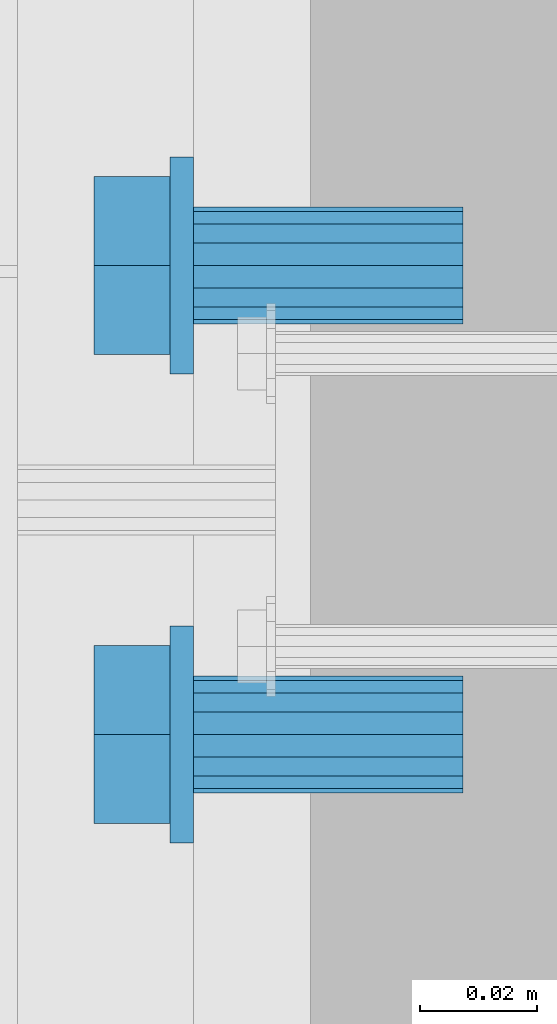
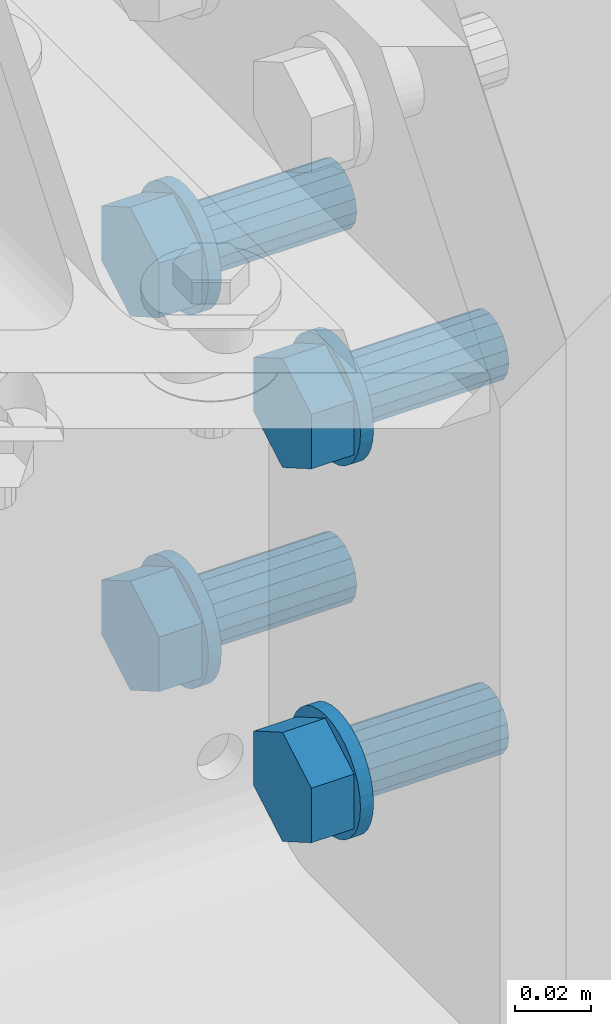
# One storey, part 215 of 410: 4 mechanical fasteners.
"""IFC2X3 building model written with IfcOpenShell, lengths in millimetres."""

import ifcopenshell
import ifcopenshell.guid

model = None  # the IFC model being written
_history = None  # IfcOwnerHistory: only IFC2X3 demands one
_inside = {}  # id of a spatial element -> (the spatial element, [elements in it])
_under = {}  # id of a project, library or spatial element -> (it, [spatial elements below it])
_declared = {}  # id of a project -> (the project, [libraries it declares])
_typed = {}  # id of a type object -> (the type object, [elements of that type])
_made_of = {}  # id of a material, layer set ... -> (it, [elements and type objects made of it])


def new_model(schema):
    """Start an empty IFC model of exactly this schema.

    Asked for "IFC4X3", IfcOpenShell would pick the latest addendum, in which some entities
    have other attributes; the version numbers below select the first issue.
    IFC2X3 requires an IfcOwnerHistory on every rooted entity: one is made here for all.
    """
    global model, _history
    if schema == "IFC4X3":
        model = ifcopenshell.file(schema_version=(4, 3, 0, 0))
    else:
        model = ifcopenshell.file(schema=schema)
    _inside.clear()
    _under.clear()
    _declared.clear()
    _typed.clear()
    _made_of.clear()
    _history = None
    if model.schema == "IFC2X3":
        org = make("IfcOrganization", Name="unknown")
        user = make(
            "IfcPersonAndOrganization",
            ThePerson=make("IfcPerson", FamilyName="unknown"),
            TheOrganization=org,
        )
        app = make(
            "IfcApplication",
            ApplicationDeveloper=org,
            Version="unknown",
            ApplicationFullName="unknown",
            ApplicationIdentifier="unknown",
        )
        _history = make(
            "IfcOwnerHistory",
            OwningUser=user,
            OwningApplication=app,
            ChangeAction="ADDED",
            CreationDate=0,
        )
    return model


def make(cls, **values):
    """One entity of the class cls with the attributes given. An attribute that is None is left unset."""
    return model.create_entity(
        cls, **{name: value for name, value in values.items() if value is not None}
    )


def entity(cls, *values):
    """Any entity or typed value of the class cls, its attributes in the order of the schema. None: left unset."""
    e = model.create_entity(cls)
    for i, value in enumerate(values):
        if value is not None:
            e[i] = value
    return e


def rooted(cls, **values):
    """An entity with a GlobalId (a new one), such as an element, a storey or a relation."""
    return make(cls, GlobalId=ifcopenshell.guid.new(), OwnerHistory=_history, **values)


def si_unit(unit_type, name, prefix=None):
    """IfcSIUnit, for example si_unit("LENGTHUNIT", "METRE", prefix="MILLI")."""
    return make("IfcSIUnit", UnitType=unit_type, Prefix=prefix, Name=name)


def converted_unit(unit_type, name, factor, base, dimensions=None, offset=None):
    """IfcConversionBasedUnit, such as the inch: factor (a typed value) times the base unit."""
    return make(
        "IfcConversionBasedUnit"
        if offset is None
        else "IfcConversionBasedUnitWithOffset",
        ConversionOffset=offset,
        Dimensions=None
        if dimensions is None
        else entity("IfcDimensionalExponents", *dimensions),
        UnitType=unit_type,
        Name=name,
        ConversionFactor=make(
            "IfcMeasureWithUnit", ValueComponent=factor, UnitComponent=base
        ),
    )


def assignment(units):
    """IfcUnitAssignment: the units of a project."""
    return None if units is None else make("IfcUnitAssignment", Units=units)


def point(xyz):
    """IfcCartesianPoint."""
    return None if xyz is None else make("IfcCartesianPoint", Coordinates=xyz)


def direction(xyz):
    """IfcDirection."""
    return None if xyz is None else make("IfcDirection", DirectionRatios=xyz)


def frame(location, z_axis=None, x_axis=None):
    """IfcAxis2Placement3D, a coordinate frame: its origin and axes. An axis left out is left unset."""
    return make(
        "IfcAxis2Placement3D",
        Location=point(location),
        Axis=direction(z_axis),
        RefDirection=direction(x_axis),
    )


def origin_with_axes():
    """The frame at (0, 0, 0) with the z axis (0, 0, 1) and the x axis (1, 0, 0) written out."""
    return frame((0.0, 0.0, 0.0), z_axis=(0.0, 0.0, 1.0), x_axis=(1.0, 0.0, 0.0))


def place(relative_to, where):
    """IfcLocalPlacement: puts the frame where relative to a parent placement (None: the world)."""
    return make(
        "IfcLocalPlacement", PlacementRelTo=relative_to, RelativePlacement=where
    )


def context(
    kind, dimensions, precision=None, world=None, true_north=None, identifier=None
):
    """IfcGeometricRepresentationContext, for example the 3D "Model" context."""
    return make(
        "IfcGeometricRepresentationContext",
        ContextIdentifier=identifier,
        ContextType=kind,
        CoordinateSpaceDimension=dimensions,
        Precision=precision,
        WorldCoordinateSystem=world,
        TrueNorth=true_north,
    )


def project(units=None, contexts=None):
    """IfcProject with its units and contexts."""
    return rooted(
        "IfcProject",
        Name="project",
        RepresentationContexts=contexts,
        UnitsInContext=assignment(units),
    )


def spatial(cls, under=None, at=None, **own):
    """A site, building, storey or space (cls), placed at a placement, below another one or the project."""
    s = rooted(cls, ObjectPlacement=at, **own)
    if under is not None:
        _under.setdefault(under.id(), (under, []))[1].append(s)
    return s


def faces_of(points, faces, orient=None, outer=None):
    """IfcFace entities. A face is a list of loops; a loop is a list of indices into points, from 0.

    orient and outer hold one flag for each loop. By default every Orientation is true, the
    first loop of a face is its IfcFaceOuterBound and the others are IfcFaceBound.
    """
    made = []
    for i, loops in enumerate(faces):
        bounds = []
        for j, loop in enumerate(loops):
            is_outer = j == 0 if outer is None else outer[i][j]
            bounds.append(
                make(
                    "IfcFaceOuterBound" if is_outer else "IfcFaceBound",
                    Bound=make("IfcPolyLoop", Polygon=[points[k] for k in loop]),
                    Orientation=True if orient is None else orient[i][j],
                )
            )
        made.append(make("IfcFace", Bounds=bounds))
    return made


def faceted_brep(points, faces, orient=None, outer=None, voids=None):
    """IfcFacetedBrep: a solid bounded by flat faces; with voids (closed shells), ...WithVoids."""
    shared = [point(p) for p in points]
    hull = make("IfcClosedShell", CfsFaces=faces_of(shared, faces, orient, outer))
    if voids is None:
        return make("IfcFacetedBrep", Outer=hull)
    return make(
        "IfcFacetedBrepWithVoids",
        Outer=hull,
        Voids=[
            make(cls, CfsFaces=faces_of(shared, fs, o, b)) for cls, fs, o, b in voids
        ],
    )


def shape(context_of_items, identifier, shape_type, items):
    """IfcShapeRepresentation: the items that make up one representation, for example the "Body"."""
    return make(
        "IfcShapeRepresentation",
        ContextOfItems=context_of_items,
        RepresentationIdentifier=identifier,
        RepresentationType=shape_type,
        Items=items,
    )


def made_of(thing, what):
    """Note that an element or type object is made of a material, layer set ...; save() writes the relation."""
    if what is not None:
        _made_of.setdefault(what.id(), (what, []))[1].append(thing)
    return thing


def element(
    cls,
    number,
    at=None,
    inside=None,
    cuts=None,
    type_object=None,
    material=None,
    context=None,
    identifier="Body",
    shape_type=None,
    held_by="IfcProductDefinitionShape",
    body=None,
    shapes=None,
    **own,
):
    """One element of the class cls, such as IfcWall. Its Tag is "e" and its number.

    at: its placement. inside: the storey or other place that contains it. cuts: it is an
    opening in that element (IfcRelVoidsElement). A single representation is given by context,
    identifier, shape_type and body (its items); several are given by shapes. held_by: the class
    of the entity that holds the representations. save() writes the other relations.
    """
    e = rooted(cls, Tag="e%d" % number, ObjectPlacement=at, **own)
    if body is not None:
        shapes = [shape(context, identifier, shape_type, body)]
    if shapes is not None:
        e.Representation = make(held_by, Representations=shapes)
    if inside is not None:
        _inside.setdefault(inside.id(), (inside, []))[1].append(e)
    if cuts is not None:
        rooted(
            "IfcRelVoidsElement", RelatingBuildingElement=cuts, RelatedOpeningElement=e
        )
    if type_object is not None:
        _typed.setdefault(type_object.id(), (type_object, []))[1].append(e)
    return made_of(e, material)


def aggregate(whole, parts):
    """IfcRelAggregates: a whole, such as a stair, and the parts it consists of."""
    return rooted("IfcRelAggregates", RelatingObject=whole, RelatedObjects=parts)


def save(model, path):
    """Write the relations noted so far, then the file.

    IfcRelAggregates (storeys below a building ...), IfcRelContainedInSpatialStructure (elements
    in a storey), IfcRelDefinesByType, IfcRelAssociatesMaterial and IfcRelDeclares: one each for
    every whole, place, type object, material and project.
    """
    for whole, parts in _under.values():
        aggregate(whole, parts)
    for where, things in _inside.values():
        rooted(
            "IfcRelContainedInSpatialStructure",
            RelatedElements=things,
            RelatingStructure=where,
        )
    for kind, things in _typed.values():
        rooted("IfcRelDefinesByType", RelatedObjects=things, RelatingType=kind)
    for what, things in _made_of.values():
        rooted("IfcRelAssociatesMaterial", RelatedObjects=things, RelatingMaterial=what)
    for by, libraries in _declared.values():
        rooted("IfcRelDeclares", RelatingContext=by, RelatedDefinitions=libraries)
    model.write(path)


model = new_model("IFC2X3")

# Units and contexts
model_context = context("Model", 3, precision=1e-09, world=origin_with_axes())
ifc_project = project(units=[si_unit("LENGTHUNIT", "METRE", prefix="MILLI"), si_unit("AREAUNIT", "SQUARE_METRE"), si_unit("VOLUMEUNIT", "CUBIC_METRE"), converted_unit("PLANEANGLEUNIT", "DEGREE", entity("IfcPlaneAngleMeasure", 0.01745329), si_unit("PLANEANGLEUNIT", "RADIAN"), dimensions=[0, 0, 0, 0, 0, 0, 0])], contexts=[model_context])

# Site, building, storey
site_placement = place(None, origin_with_axes())
site = spatial("IfcSite", under=ifc_project, at=site_placement, Name="mKR Teilneubau & Sanierung BA1 - Ostfildern", CompositionType="ELEMENT")
building_placement = place(site_placement, origin_with_axes())
building = spatial("IfcBuilding", under=site, at=building_placement, Name="Struktur 1", CompositionType="ELEMENT")
storey_placement = place(building_placement, origin_with_axes())
storey = spatial("IfcBuildingStorey", under=building, at=storey_placement, Name="Default Storey", CompositionType="ELEMENT", Elevation=0.0)

# Mechanical fasteners
mechanical_fastener_1_placement = place(None, origin_with_axes())
element("IfcMechanicalFastener", 1, at=mechanical_fastener_1_placement, inside=storey, ObjectType="-", NominalDiameter=20.0, NominalLength=50.0, context=model_context, shape_type="Brep", body=[
    faceted_brep([(-1729.0, 16958.5, -335.0), (-1725.0, 16958.5, -335.0), (-1725.0, 16958.144527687, -338.609170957), (-1729.0, 16958.144527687, -338.609170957), (-1725.0, 16957.091771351, -342.079643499), (-1729.0, 16957.091771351, -342.079643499), (-1725.0, 16955.382187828, -345.278049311), (-1729.0, 16955.382187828, -345.278049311), (-1725.0, 16953.081475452, -348.081475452), (-1729.0, 16953.081475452, -348.081475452), (-1725.0, 16950.278049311, -350.382187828), (-1729.0, 16950.278049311, -350.382187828), (-1725.0, 16947.079643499, -352.091771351), (-1729.0, 16947.079643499, -352.091771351), (-1725.0, 16943.609170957, -353.144527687), (-1729.0, 16943.609170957, -353.144527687), (-1725.0, 16940.0, -353.5), (-1729.0, 16940.0, -353.5), (-1725.0, 16936.390829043, -353.144527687), (-1729.0, 16936.390829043, -353.144527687), (-1725.0, 16932.920356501, -352.091771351), (-1729.0, 16932.920356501, -352.091771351), (-1725.0, 16929.721950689, -350.382187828), (-1729.0, 16929.721950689, -350.382187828), (-1725.0, 16926.918524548, -348.081475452), (-1729.0, 16926.918524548, -348.081475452), (-1725.0, 16924.617812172, -345.278049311), (-1729.0, 16924.617812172, -345.278049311), (-1725.0, 16922.908228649, -342.079643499), (-1729.0, 16922.908228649, -342.079643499), (-1725.0, 16921.855472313, -338.609170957), (-1729.0, 16921.855472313, -338.609170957), (-1725.0, 16921.5, -335.0), (-1729.0, 16921.5, -335.0), (-1725.0, 16921.855472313, -331.390829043), (-1729.0, 16921.855472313, -331.390829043), (-1725.0, 16922.908228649, -327.920356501), (-1729.0, 16922.908228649, -327.920356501), (-1725.0, 16924.617812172, -324.721950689), (-1729.0, 16924.617812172, -324.721950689), (-1725.0, 16926.918524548, -321.918524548), (-1729.0, 16926.918524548, -321.918524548), (-1725.0, 16929.721950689, -319.617812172), (-1729.0, 16929.721950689, -319.617812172), (-1725.0, 16932.920356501, -317.908228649), (-1729.0, 16932.920356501, -317.908228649), (-1725.0, 16936.390829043, -316.855472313), (-1729.0, 16936.390829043, -316.855472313), (-1725.0, 16940.0, -316.5), (-1729.0, 16940.0, -316.5), (-1725.0, 16943.609170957, -316.855472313), (-1729.0, 16943.609170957, -316.855472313), (-1725.0, 16947.079643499, -317.908228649), (-1729.0, 16947.079643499, -317.908228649), (-1725.0, 16950.278049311, -319.617812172), (-1729.0, 16950.278049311, -319.617812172), (-1725.0, 16953.081475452, -321.918524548), (-1729.0, 16953.081475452, -321.918524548), (-1725.0, 16955.382187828, -324.721950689), (-1729.0, 16955.382187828, -324.721950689), (-1725.0, 16957.091771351, -327.920356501), (-1729.0, 16957.091771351, -327.920356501), (-1725.0, 16958.144527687, -331.390829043), (-1729.0, 16958.144527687, -331.390829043)], [[[0, 1, 2, 3]], [[3, 2, 4, 5]], [[5, 4, 6, 7]], [[7, 6, 8, 9]], [[9, 8, 10, 11]], [[11, 10, 12, 13]], [[13, 12, 14, 15]], [[15, 14, 16, 17]], [[17, 16, 18, 19]], [[19, 18, 20, 21]], [[21, 20, 22, 23]], [[23, 22, 24, 25]], [[25, 24, 26, 27]], [[27, 26, 28, 29]], [[29, 28, 30, 31]], [[31, 30, 32, 33]], [[33, 32, 34, 35]], [[35, 34, 36, 37]], [[37, 36, 38, 39]], [[39, 38, 40, 41]], [[41, 40, 42, 43]], [[43, 42, 44, 45]], [[45, 44, 46, 47]], [[47, 46, 48, 49]], [[49, 48, 50, 51]], [[51, 50, 52, 53]], [[53, 52, 54, 55]], [[55, 54, 56, 57]], [[57, 56, 58, 59]], [[59, 58, 60, 61]], [[61, 60, 62, 63]], [[63, 62, 1, 0]], [[0, 3, 5, 7, 9, 11, 13, 15, 17, 19, 21, 23, 25, 27, 29, 31, 33, 35, 37, 39, 41, 43, 45, 47, 49, 51, 53, 55, 57, 59, 61, 63]], [[1, 62, 60, 58, 56, 54, 52, 50, 48, 46, 44, 42, 40, 38, 36, 34, 32, 30, 28, 26, 24, 22, 20, 18, 16, 14, 12, 10, 8, 6, 4, 2]]]),
    faceted_brep([(-1729.0, 16924.831565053, -343.7575), (-1742.0, 16924.831565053, -343.7575), (-1742.0, 16940.0, -352.515), (-1729.0, 16940.0, -352.515), (-1742.0, 16955.168434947, -343.7575), (-1729.0, 16955.168434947, -343.7575), (-1742.0, 16955.168434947, -326.2425), (-1729.0, 16955.168434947, -326.2425), (-1742.0, 16940.0, -317.485), (-1729.0, 16940.0, -317.485), (-1742.0, 16924.831565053, -326.2425), (-1729.0, 16924.831565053, -326.2425)], [[[0, 1, 2, 3]], [[3, 2, 4, 5]], [[5, 4, 6, 7]], [[7, 6, 8, 9]], [[9, 8, 10, 11]], [[11, 10, 1, 0]], [[4, 2, 1, 10, 8, 6]], [[0, 3, 5, 7, 9, 11]]]),
    faceted_brep([(-1725.0, 16950.0, -335.0), (-1705.0, 16950.0, -335.0), (-1705.0, 16949.238795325, -338.826834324), (-1725.0, 16949.238795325, -338.826834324), (-1705.0, 16947.071067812, -342.071067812), (-1725.0, 16947.071067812, -342.071067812), (-1705.0, 16943.826834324, -344.238795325), (-1725.0, 16943.826834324, -344.238795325), (-1705.0, 16940.0, -345.0), (-1725.0, 16940.0, -345.0), (-1705.0, 16936.173165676, -344.238795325), (-1725.0, 16936.173165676, -344.238795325), (-1705.0, 16932.928932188, -342.071067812), (-1725.0, 16932.928932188, -342.071067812), (-1705.0, 16930.761204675, -338.826834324), (-1725.0, 16930.761204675, -338.826834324), (-1705.0, 16930.0, -335.0), (-1725.0, 16930.0, -335.0), (-1705.0, 16930.761204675, -331.173165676), (-1725.0, 16930.761204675, -331.173165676), (-1705.0, 16932.928932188, -327.928932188), (-1725.0, 16932.928932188, -327.928932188), (-1705.0, 16936.173165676, -325.761204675), (-1725.0, 16936.173165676, -325.761204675), (-1705.0, 16940.0, -325.0), (-1725.0, 16940.0, -325.0), (-1705.0, 16943.826834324, -325.761204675), (-1725.0, 16943.826834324, -325.761204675), (-1705.0, 16947.071067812, -327.928932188), (-1725.0, 16947.071067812, -327.928932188), (-1705.0, 16949.238795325, -331.173165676), (-1725.0, 16949.238795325, -331.173165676)], [[[0, 1, 2, 3]], [[3, 2, 4, 5]], [[5, 4, 6, 7]], [[7, 6, 8, 9]], [[9, 8, 10, 11]], [[11, 10, 12, 13]], [[13, 12, 14, 15]], [[15, 14, 16, 17]], [[17, 16, 18, 19]], [[19, 18, 20, 21]], [[21, 20, 22, 23]], [[23, 22, 24, 25]], [[25, 24, 26, 27]], [[27, 26, 28, 29]], [[29, 28, 30, 31]], [[31, 30, 1, 0]], [[0, 3, 5, 7, 9, 11, 13, 15, 17, 19, 21, 23, 25, 27, 29, 31]], [[1, 30, 28, 26, 24, 22, 20, 18, 16, 14, 12, 10, 8, 6, 4, 2]]]),
    faceted_brep([(-1705.0, 16950.0, -335.0), (-1679.0, 16950.0, -335.0), (-1679.0, 16949.238795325, -338.826834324), (-1705.0, 16949.238795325, -338.826834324), (-1679.0, 16947.071067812, -342.071067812), (-1705.0, 16947.071067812, -342.071067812), (-1679.0, 16943.826834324, -344.238795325), (-1705.0, 16943.826834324, -344.238795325), (-1679.0, 16940.0, -345.0), (-1705.0, 16940.0, -345.0), (-1679.0, 16936.173165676, -344.238795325), (-1705.0, 16936.173165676, -344.238795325), (-1679.0, 16932.928932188, -342.071067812), (-1705.0, 16932.928932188, -342.071067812), (-1679.0, 16930.761204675, -338.826834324), (-1705.0, 16930.761204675, -338.826834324), (-1679.0, 16930.0, -335.0), (-1705.0, 16930.0, -335.0), (-1679.0, 16930.761204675, -331.173165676), (-1705.0, 16930.761204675, -331.173165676), (-1679.0, 16932.928932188, -327.928932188), (-1705.0, 16932.928932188, -327.928932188), (-1679.0, 16936.173165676, -325.761204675), (-1705.0, 16936.173165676, -325.761204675), (-1679.0, 16940.0, -325.0), (-1705.0, 16940.0, -325.0), (-1679.0, 16943.826834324, -325.761204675), (-1705.0, 16943.826834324, -325.761204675), (-1679.0, 16947.071067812, -327.928932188), (-1705.0, 16947.071067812, -327.928932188), (-1679.0, 16949.238795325, -331.173165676), (-1705.0, 16949.238795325, -331.173165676)], [[[0, 1, 2, 3]], [[3, 2, 4, 5]], [[5, 4, 6, 7]], [[7, 6, 8, 9]], [[9, 8, 10, 11]], [[11, 10, 12, 13]], [[13, 12, 14, 15]], [[15, 14, 16, 17]], [[17, 16, 18, 19]], [[19, 18, 20, 21]], [[21, 20, 22, 23]], [[23, 22, 24, 25]], [[25, 24, 26, 27]], [[27, 26, 28, 29]], [[29, 28, 30, 31]], [[31, 30, 1, 0]], [[0, 3, 5, 7, 9, 11, 13, 15, 17, 19, 21, 23, 25, 27, 29, 31]], [[1, 30, 28, 26, 24, 22, 20, 18, 16, 14, 12, 10, 8, 6, 4, 2]]]),
])
mechanical_fastener_2_placement = place(None, origin_with_axes())
element("IfcMechanicalFastener", 2, at=mechanical_fastener_2_placement, inside=storey, ObjectType="-", NominalDiameter=20.0, NominalLength=50.0, context=model_context, shape_type="Brep", body=[
    faceted_brep([(-1729.0, 17038.5, -335.0), (-1725.0, 17038.5, -335.0), (-1725.0, 17038.144527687, -338.609170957), (-1729.0, 17038.144527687, -338.609170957), (-1725.0, 17037.091771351, -342.079643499), (-1729.0, 17037.091771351, -342.079643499), (-1725.0, 17035.382187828, -345.278049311), (-1729.0, 17035.382187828, -345.278049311), (-1725.0, 17033.081475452, -348.081475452), (-1729.0, 17033.081475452, -348.081475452), (-1725.0, 17030.278049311, -350.382187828), (-1729.0, 17030.278049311, -350.382187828), (-1725.0, 17027.079643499, -352.091771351), (-1729.0, 17027.079643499, -352.091771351), (-1725.0, 17023.609170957, -353.144527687), (-1729.0, 17023.609170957, -353.144527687), (-1725.0, 17020.0, -353.5), (-1729.0, 17020.0, -353.5), (-1725.0, 17016.390829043, -353.144527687), (-1729.0, 17016.390829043, -353.144527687), (-1725.0, 17012.920356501, -352.091771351), (-1729.0, 17012.920356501, -352.091771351), (-1725.0, 17009.721950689, -350.382187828), (-1729.0, 17009.721950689, -350.382187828), (-1725.0, 17006.918524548, -348.081475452), (-1729.0, 17006.918524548, -348.081475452), (-1725.0, 17004.617812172, -345.278049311), (-1729.0, 17004.617812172, -345.278049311), (-1725.0, 17002.908228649, -342.079643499), (-1729.0, 17002.908228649, -342.079643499), (-1725.0, 17001.855472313, -338.609170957), (-1729.0, 17001.855472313, -338.609170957), (-1725.0, 17001.5, -335.0), (-1729.0, 17001.5, -335.0), (-1725.0, 17001.855472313, -331.390829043), (-1729.0, 17001.855472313, -331.390829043), (-1725.0, 17002.908228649, -327.920356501), (-1729.0, 17002.908228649, -327.920356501), (-1725.0, 17004.617812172, -324.721950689), (-1729.0, 17004.617812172, -324.721950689), (-1725.0, 17006.918524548, -321.918524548), (-1729.0, 17006.918524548, -321.918524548), (-1725.0, 17009.721950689, -319.617812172), (-1729.0, 17009.721950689, -319.617812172), (-1725.0, 17012.920356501, -317.908228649), (-1729.0, 17012.920356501, -317.908228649), (-1725.0, 17016.390829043, -316.855472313), (-1729.0, 17016.390829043, -316.855472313), (-1725.0, 17020.0, -316.5), (-1729.0, 17020.0, -316.5), (-1725.0, 17023.609170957, -316.855472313), (-1729.0, 17023.609170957, -316.855472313), (-1725.0, 17027.079643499, -317.908228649), (-1729.0, 17027.079643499, -317.908228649), (-1725.0, 17030.278049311, -319.617812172), (-1729.0, 17030.278049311, -319.617812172), (-1725.0, 17033.081475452, -321.918524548), (-1729.0, 17033.081475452, -321.918524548), (-1725.0, 17035.382187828, -324.721950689), (-1729.0, 17035.382187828, -324.721950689), (-1725.0, 17037.091771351, -327.920356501), (-1729.0, 17037.091771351, -327.920356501), (-1725.0, 17038.144527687, -331.390829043), (-1729.0, 17038.144527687, -331.390829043)], [[[0, 1, 2, 3]], [[3, 2, 4, 5]], [[5, 4, 6, 7]], [[7, 6, 8, 9]], [[9, 8, 10, 11]], [[11, 10, 12, 13]], [[13, 12, 14, 15]], [[15, 14, 16, 17]], [[17, 16, 18, 19]], [[19, 18, 20, 21]], [[21, 20, 22, 23]], [[23, 22, 24, 25]], [[25, 24, 26, 27]], [[27, 26, 28, 29]], [[29, 28, 30, 31]], [[31, 30, 32, 33]], [[33, 32, 34, 35]], [[35, 34, 36, 37]], [[37, 36, 38, 39]], [[39, 38, 40, 41]], [[41, 40, 42, 43]], [[43, 42, 44, 45]], [[45, 44, 46, 47]], [[47, 46, 48, 49]], [[49, 48, 50, 51]], [[51, 50, 52, 53]], [[53, 52, 54, 55]], [[55, 54, 56, 57]], [[57, 56, 58, 59]], [[59, 58, 60, 61]], [[61, 60, 62, 63]], [[63, 62, 1, 0]], [[0, 3, 5, 7, 9, 11, 13, 15, 17, 19, 21, 23, 25, 27, 29, 31, 33, 35, 37, 39, 41, 43, 45, 47, 49, 51, 53, 55, 57, 59, 61, 63]], [[1, 62, 60, 58, 56, 54, 52, 50, 48, 46, 44, 42, 40, 38, 36, 34, 32, 30, 28, 26, 24, 22, 20, 18, 16, 14, 12, 10, 8, 6, 4, 2]]]),
    faceted_brep([(-1729.0, 17004.831565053, -343.7575), (-1742.0, 17004.831565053, -343.7575), (-1742.0, 17020.0, -352.515), (-1729.0, 17020.0, -352.515), (-1742.0, 17035.168434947, -343.7575), (-1729.0, 17035.168434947, -343.7575), (-1742.0, 17035.168434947, -326.2425), (-1729.0, 17035.168434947, -326.2425), (-1742.0, 17020.0, -317.485), (-1729.0, 17020.0, -317.485), (-1742.0, 17004.831565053, -326.2425), (-1729.0, 17004.831565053, -326.2425)], [[[0, 1, 2, 3]], [[3, 2, 4, 5]], [[5, 4, 6, 7]], [[7, 6, 8, 9]], [[9, 8, 10, 11]], [[11, 10, 1, 0]], [[4, 2, 1, 10, 8, 6]], [[0, 3, 5, 7, 9, 11]]]),
    faceted_brep([(-1725.0, 17030.0, -335.0), (-1705.0, 17030.0, -335.0), (-1705.0, 17029.238795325, -338.826834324), (-1725.0, 17029.238795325, -338.826834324), (-1705.0, 17027.071067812, -342.071067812), (-1725.0, 17027.071067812, -342.071067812), (-1705.0, 17023.826834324, -344.238795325), (-1725.0, 17023.826834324, -344.238795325), (-1705.0, 17020.0, -345.0), (-1725.0, 17020.0, -345.0), (-1705.0, 17016.173165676, -344.238795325), (-1725.0, 17016.173165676, -344.238795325), (-1705.0, 17012.928932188, -342.071067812), (-1725.0, 17012.928932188, -342.071067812), (-1705.0, 17010.761204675, -338.826834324), (-1725.0, 17010.761204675, -338.826834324), (-1705.0, 17010.0, -335.0), (-1725.0, 17010.0, -335.0), (-1705.0, 17010.761204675, -331.173165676), (-1725.0, 17010.761204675, -331.173165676), (-1705.0, 17012.928932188, -327.928932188), (-1725.0, 17012.928932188, -327.928932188), (-1705.0, 17016.173165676, -325.761204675), (-1725.0, 17016.173165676, -325.761204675), (-1705.0, 17020.0, -325.0), (-1725.0, 17020.0, -325.0), (-1705.0, 17023.826834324, -325.761204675), (-1725.0, 17023.826834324, -325.761204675), (-1705.0, 17027.071067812, -327.928932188), (-1725.0, 17027.071067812, -327.928932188), (-1705.0, 17029.238795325, -331.173165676), (-1725.0, 17029.238795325, -331.173165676)], [[[0, 1, 2, 3]], [[3, 2, 4, 5]], [[5, 4, 6, 7]], [[7, 6, 8, 9]], [[9, 8, 10, 11]], [[11, 10, 12, 13]], [[13, 12, 14, 15]], [[15, 14, 16, 17]], [[17, 16, 18, 19]], [[19, 18, 20, 21]], [[21, 20, 22, 23]], [[23, 22, 24, 25]], [[25, 24, 26, 27]], [[27, 26, 28, 29]], [[29, 28, 30, 31]], [[31, 30, 1, 0]], [[0, 3, 5, 7, 9, 11, 13, 15, 17, 19, 21, 23, 25, 27, 29, 31]], [[1, 30, 28, 26, 24, 22, 20, 18, 16, 14, 12, 10, 8, 6, 4, 2]]]),
    faceted_brep([(-1705.0, 17030.0, -335.0), (-1679.0, 17030.0, -335.0), (-1679.0, 17029.238795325, -338.826834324), (-1705.0, 17029.238795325, -338.826834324), (-1679.0, 17027.071067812, -342.071067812), (-1705.0, 17027.071067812, -342.071067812), (-1679.0, 17023.826834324, -344.238795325), (-1705.0, 17023.826834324, -344.238795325), (-1679.0, 17020.0, -345.0), (-1705.0, 17020.0, -345.0), (-1679.0, 17016.173165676, -344.238795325), (-1705.0, 17016.173165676, -344.238795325), (-1679.0, 17012.928932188, -342.071067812), (-1705.0, 17012.928932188, -342.071067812), (-1679.0, 17010.761204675, -338.826834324), (-1705.0, 17010.761204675, -338.826834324), (-1679.0, 17010.0, -335.0), (-1705.0, 17010.0, -335.0), (-1679.0, 17010.761204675, -331.173165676), (-1705.0, 17010.761204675, -331.173165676), (-1679.0, 17012.928932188, -327.928932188), (-1705.0, 17012.928932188, -327.928932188), (-1679.0, 17016.173165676, -325.761204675), (-1705.0, 17016.173165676, -325.761204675), (-1679.0, 17020.0, -325.0), (-1705.0, 17020.0, -325.0), (-1679.0, 17023.826834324, -325.761204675), (-1705.0, 17023.826834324, -325.761204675), (-1679.0, 17027.071067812, -327.928932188), (-1705.0, 17027.071067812, -327.928932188), (-1679.0, 17029.238795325, -331.173165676), (-1705.0, 17029.238795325, -331.173165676)], [[[0, 1, 2, 3]], [[3, 2, 4, 5]], [[5, 4, 6, 7]], [[7, 6, 8, 9]], [[9, 8, 10, 11]], [[11, 10, 12, 13]], [[13, 12, 14, 15]], [[15, 14, 16, 17]], [[17, 16, 18, 19]], [[19, 18, 20, 21]], [[21, 20, 22, 23]], [[23, 22, 24, 25]], [[25, 24, 26, 27]], [[27, 26, 28, 29]], [[29, 28, 30, 31]], [[31, 30, 1, 0]], [[0, 3, 5, 7, 9, 11, 13, 15, 17, 19, 21, 23, 25, 27, 29, 31]], [[1, 30, 28, 26, 24, 22, 20, 18, 16, 14, 12, 10, 8, 6, 4, 2]]]),
])
mechanical_fastener_3_placement = place(None, origin_with_axes())
element("IfcMechanicalFastener", 3, at=mechanical_fastener_3_placement, inside=storey, ObjectType="-", NominalDiameter=20.0, NominalLength=50.0, context=model_context, shape_type="Brep", body=[
    faceted_brep([(-1729.0, 17038.5, -455.0), (-1725.0, 17038.5, -455.0), (-1725.0, 17038.144527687, -458.609170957), (-1729.0, 17038.144527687, -458.609170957), (-1725.0, 17037.091771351, -462.079643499), (-1729.0, 17037.091771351, -462.079643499), (-1725.0, 17035.382187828, -465.278049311), (-1729.0, 17035.382187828, -465.278049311), (-1725.0, 17033.081475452, -468.081475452), (-1729.0, 17033.081475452, -468.081475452), (-1725.0, 17030.278049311, -470.382187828), (-1729.0, 17030.278049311, -470.382187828), (-1725.0, 17027.079643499, -472.091771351), (-1729.0, 17027.079643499, -472.091771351), (-1725.0, 17023.609170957, -473.144527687), (-1729.0, 17023.609170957, -473.144527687), (-1725.0, 17020.0, -473.5), (-1729.0, 17020.0, -473.5), (-1725.0, 17016.390829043, -473.144527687), (-1729.0, 17016.390829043, -473.144527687), (-1725.0, 17012.920356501, -472.091771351), (-1729.0, 17012.920356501, -472.091771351), (-1725.0, 17009.721950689, -470.382187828), (-1729.0, 17009.721950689, -470.382187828), (-1725.0, 17006.918524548, -468.081475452), (-1729.0, 17006.918524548, -468.081475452), (-1725.0, 17004.617812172, -465.278049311), (-1729.0, 17004.617812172, -465.278049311), (-1725.0, 17002.908228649, -462.079643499), (-1729.0, 17002.908228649, -462.079643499), (-1725.0, 17001.855472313, -458.609170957), (-1729.0, 17001.855472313, -458.609170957), (-1725.0, 17001.5, -455.0), (-1729.0, 17001.5, -455.0), (-1725.0, 17001.855472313, -451.390829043), (-1729.0, 17001.855472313, -451.390829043), (-1725.0, 17002.908228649, -447.920356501), (-1729.0, 17002.908228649, -447.920356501), (-1725.0, 17004.617812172, -444.721950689), (-1729.0, 17004.617812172, -444.721950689), (-1725.0, 17006.918524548, -441.918524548), (-1729.0, 17006.918524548, -441.918524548), (-1725.0, 17009.721950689, -439.617812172), (-1729.0, 17009.721950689, -439.617812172), (-1725.0, 17012.920356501, -437.908228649), (-1729.0, 17012.920356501, -437.908228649), (-1725.0, 17016.390829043, -436.855472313), (-1729.0, 17016.390829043, -436.855472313), (-1725.0, 17020.0, -436.5), (-1729.0, 17020.0, -436.5), (-1725.0, 17023.609170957, -436.855472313), (-1729.0, 17023.609170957, -436.855472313), (-1725.0, 17027.079643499, -437.908228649), (-1729.0, 17027.079643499, -437.908228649), (-1725.0, 17030.278049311, -439.617812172), (-1729.0, 17030.278049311, -439.617812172), (-1725.0, 17033.081475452, -441.918524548), (-1729.0, 17033.081475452, -441.918524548), (-1725.0, 17035.382187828, -444.721950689), (-1729.0, 17035.382187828, -444.721950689), (-1725.0, 17037.091771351, -447.920356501), (-1729.0, 17037.091771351, -447.920356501), (-1725.0, 17038.144527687, -451.390829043), (-1729.0, 17038.144527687, -451.390829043)], [[[0, 1, 2, 3]], [[3, 2, 4, 5]], [[5, 4, 6, 7]], [[7, 6, 8, 9]], [[9, 8, 10, 11]], [[11, 10, 12, 13]], [[13, 12, 14, 15]], [[15, 14, 16, 17]], [[17, 16, 18, 19]], [[19, 18, 20, 21]], [[21, 20, 22, 23]], [[23, 22, 24, 25]], [[25, 24, 26, 27]], [[27, 26, 28, 29]], [[29, 28, 30, 31]], [[31, 30, 32, 33]], [[33, 32, 34, 35]], [[35, 34, 36, 37]], [[37, 36, 38, 39]], [[39, 38, 40, 41]], [[41, 40, 42, 43]], [[43, 42, 44, 45]], [[45, 44, 46, 47]], [[47, 46, 48, 49]], [[49, 48, 50, 51]], [[51, 50, 52, 53]], [[53, 52, 54, 55]], [[55, 54, 56, 57]], [[57, 56, 58, 59]], [[59, 58, 60, 61]], [[61, 60, 62, 63]], [[63, 62, 1, 0]], [[0, 3, 5, 7, 9, 11, 13, 15, 17, 19, 21, 23, 25, 27, 29, 31, 33, 35, 37, 39, 41, 43, 45, 47, 49, 51, 53, 55, 57, 59, 61, 63]], [[1, 62, 60, 58, 56, 54, 52, 50, 48, 46, 44, 42, 40, 38, 36, 34, 32, 30, 28, 26, 24, 22, 20, 18, 16, 14, 12, 10, 8, 6, 4, 2]]]),
    faceted_brep([(-1729.0, 17004.831565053, -463.7575), (-1742.0, 17004.831565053, -463.7575), (-1742.0, 17020.0, -472.515), (-1729.0, 17020.0, -472.515), (-1742.0, 17035.168434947, -463.7575), (-1729.0, 17035.168434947, -463.7575), (-1742.0, 17035.168434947, -446.2425), (-1729.0, 17035.168434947, -446.2425), (-1742.0, 17020.0, -437.485), (-1729.0, 17020.0, -437.485), (-1742.0, 17004.831565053, -446.2425), (-1729.0, 17004.831565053, -446.2425)], [[[0, 1, 2, 3]], [[3, 2, 4, 5]], [[5, 4, 6, 7]], [[7, 6, 8, 9]], [[9, 8, 10, 11]], [[11, 10, 1, 0]], [[4, 2, 1, 10, 8, 6]], [[0, 3, 5, 7, 9, 11]]]),
    faceted_brep([(-1725.0, 17030.0, -455.0), (-1705.0, 17030.0, -455.0), (-1705.0, 17029.238795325, -458.826834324), (-1725.0, 17029.238795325, -458.826834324), (-1705.0, 17027.071067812, -462.071067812), (-1725.0, 17027.071067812, -462.071067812), (-1705.0, 17023.826834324, -464.238795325), (-1725.0, 17023.826834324, -464.238795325), (-1705.0, 17020.0, -465.0), (-1725.0, 17020.0, -465.0), (-1705.0, 17016.173165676, -464.238795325), (-1725.0, 17016.173165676, -464.238795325), (-1705.0, 17012.928932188, -462.071067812), (-1725.0, 17012.928932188, -462.071067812), (-1705.0, 17010.761204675, -458.826834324), (-1725.0, 17010.761204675, -458.826834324), (-1705.0, 17010.0, -455.0), (-1725.0, 17010.0, -455.0), (-1705.0, 17010.761204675, -451.173165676), (-1725.0, 17010.761204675, -451.173165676), (-1705.0, 17012.928932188, -447.928932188), (-1725.0, 17012.928932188, -447.928932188), (-1705.0, 17016.173165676, -445.761204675), (-1725.0, 17016.173165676, -445.761204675), (-1705.0, 17020.0, -445.0), (-1725.0, 17020.0, -445.0), (-1705.0, 17023.826834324, -445.761204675), (-1725.0, 17023.826834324, -445.761204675), (-1705.0, 17027.071067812, -447.928932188), (-1725.0, 17027.071067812, -447.928932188), (-1705.0, 17029.238795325, -451.173165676), (-1725.0, 17029.238795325, -451.173165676)], [[[0, 1, 2, 3]], [[3, 2, 4, 5]], [[5, 4, 6, 7]], [[7, 6, 8, 9]], [[9, 8, 10, 11]], [[11, 10, 12, 13]], [[13, 12, 14, 15]], [[15, 14, 16, 17]], [[17, 16, 18, 19]], [[19, 18, 20, 21]], [[21, 20, 22, 23]], [[23, 22, 24, 25]], [[25, 24, 26, 27]], [[27, 26, 28, 29]], [[29, 28, 30, 31]], [[31, 30, 1, 0]], [[0, 3, 5, 7, 9, 11, 13, 15, 17, 19, 21, 23, 25, 27, 29, 31]], [[1, 30, 28, 26, 24, 22, 20, 18, 16, 14, 12, 10, 8, 6, 4, 2]]]),
    faceted_brep([(-1705.0, 17030.0, -455.0), (-1679.0, 17030.0, -455.0), (-1679.0, 17029.238795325, -458.826834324), (-1705.0, 17029.238795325, -458.826834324), (-1679.0, 17027.071067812, -462.071067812), (-1705.0, 17027.071067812, -462.071067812), (-1679.0, 17023.826834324, -464.238795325), (-1705.0, 17023.826834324, -464.238795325), (-1679.0, 17020.0, -465.0), (-1705.0, 17020.0, -465.0), (-1679.0, 17016.173165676, -464.238795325), (-1705.0, 17016.173165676, -464.238795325), (-1679.0, 17012.928932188, -462.071067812), (-1705.0, 17012.928932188, -462.071067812), (-1679.0, 17010.761204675, -458.826834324), (-1705.0, 17010.761204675, -458.826834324), (-1679.0, 17010.0, -455.0), (-1705.0, 17010.0, -455.0), (-1679.0, 17010.761204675, -451.173165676), (-1705.0, 17010.761204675, -451.173165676), (-1679.0, 17012.928932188, -447.928932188), (-1705.0, 17012.928932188, -447.928932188), (-1679.0, 17016.173165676, -445.761204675), (-1705.0, 17016.173165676, -445.761204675), (-1679.0, 17020.0, -445.0), (-1705.0, 17020.0, -445.0), (-1679.0, 17023.826834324, -445.761204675), (-1705.0, 17023.826834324, -445.761204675), (-1679.0, 17027.071067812, -447.928932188), (-1705.0, 17027.071067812, -447.928932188), (-1679.0, 17029.238795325, -451.173165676), (-1705.0, 17029.238795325, -451.173165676)], [[[0, 1, 2, 3]], [[3, 2, 4, 5]], [[5, 4, 6, 7]], [[7, 6, 8, 9]], [[9, 8, 10, 11]], [[11, 10, 12, 13]], [[13, 12, 14, 15]], [[15, 14, 16, 17]], [[17, 16, 18, 19]], [[19, 18, 20, 21]], [[21, 20, 22, 23]], [[23, 22, 24, 25]], [[25, 24, 26, 27]], [[27, 26, 28, 29]], [[29, 28, 30, 31]], [[31, 30, 1, 0]], [[0, 3, 5, 7, 9, 11, 13, 15, 17, 19, 21, 23, 25, 27, 29, 31]], [[1, 30, 28, 26, 24, 22, 20, 18, 16, 14, 12, 10, 8, 6, 4, 2]]]),
])
mechanical_fastener_4_placement = place(None, origin_with_axes())
element("IfcMechanicalFastener", 4, at=mechanical_fastener_4_placement, inside=storey, ObjectType="-", NominalDiameter=20.0, NominalLength=50.0, context=model_context, shape_type="Brep", body=[
    faceted_brep([(-1729.0, 16958.5, -455.0), (-1725.0, 16958.5, -455.0), (-1725.0, 16958.144527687, -458.609170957), (-1729.0, 16958.144527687, -458.609170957), (-1725.0, 16957.091771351, -462.079643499), (-1729.0, 16957.091771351, -462.079643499), (-1725.0, 16955.382187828, -465.278049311), (-1729.0, 16955.382187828, -465.278049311), (-1725.0, 16953.081475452, -468.081475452), (-1729.0, 16953.081475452, -468.081475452), (-1725.0, 16950.278049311, -470.382187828), (-1729.0, 16950.278049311, -470.382187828), (-1725.0, 16947.079643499, -472.091771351), (-1729.0, 16947.079643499, -472.091771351), (-1725.0, 16943.609170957, -473.144527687), (-1729.0, 16943.609170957, -473.144527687), (-1725.0, 16940.0, -473.5), (-1729.0, 16940.0, -473.5), (-1725.0, 16936.390829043, -473.144527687), (-1729.0, 16936.390829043, -473.144527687), (-1725.0, 16932.920356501, -472.091771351), (-1729.0, 16932.920356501, -472.091771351), (-1725.0, 16929.721950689, -470.382187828), (-1729.0, 16929.721950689, -470.382187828), (-1725.0, 16926.918524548, -468.081475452), (-1729.0, 16926.918524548, -468.081475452), (-1725.0, 16924.617812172, -465.278049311), (-1729.0, 16924.617812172, -465.278049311), (-1725.0, 16922.908228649, -462.079643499), (-1729.0, 16922.908228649, -462.079643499), (-1725.0, 16921.855472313, -458.609170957), (-1729.0, 16921.855472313, -458.609170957), (-1725.0, 16921.5, -455.0), (-1729.0, 16921.5, -455.0), (-1725.0, 16921.855472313, -451.390829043), (-1729.0, 16921.855472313, -451.390829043), (-1725.0, 16922.908228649, -447.920356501), (-1729.0, 16922.908228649, -447.920356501), (-1725.0, 16924.617812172, -444.721950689), (-1729.0, 16924.617812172, -444.721950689), (-1725.0, 16926.918524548, -441.918524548), (-1729.0, 16926.918524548, -441.918524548), (-1725.0, 16929.721950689, -439.617812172), (-1729.0, 16929.721950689, -439.617812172), (-1725.0, 16932.920356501, -437.908228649), (-1729.0, 16932.920356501, -437.908228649), (-1725.0, 16936.390829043, -436.855472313), (-1729.0, 16936.390829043, -436.855472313), (-1725.0, 16940.0, -436.5), (-1729.0, 16940.0, -436.5), (-1725.0, 16943.609170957, -436.855472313), (-1729.0, 16943.609170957, -436.855472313), (-1725.0, 16947.079643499, -437.908228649), (-1729.0, 16947.079643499, -437.908228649), (-1725.0, 16950.278049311, -439.617812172), (-1729.0, 16950.278049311, -439.617812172), (-1725.0, 16953.081475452, -441.918524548), (-1729.0, 16953.081475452, -441.918524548), (-1725.0, 16955.382187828, -444.721950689), (-1729.0, 16955.382187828, -444.721950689), (-1725.0, 16957.091771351, -447.920356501), (-1729.0, 16957.091771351, -447.920356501), (-1725.0, 16958.144527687, -451.390829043), (-1729.0, 16958.144527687, -451.390829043)], [[[0, 1, 2, 3]], [[3, 2, 4, 5]], [[5, 4, 6, 7]], [[7, 6, 8, 9]], [[9, 8, 10, 11]], [[11, 10, 12, 13]], [[13, 12, 14, 15]], [[15, 14, 16, 17]], [[17, 16, 18, 19]], [[19, 18, 20, 21]], [[21, 20, 22, 23]], [[23, 22, 24, 25]], [[25, 24, 26, 27]], [[27, 26, 28, 29]], [[29, 28, 30, 31]], [[31, 30, 32, 33]], [[33, 32, 34, 35]], [[35, 34, 36, 37]], [[37, 36, 38, 39]], [[39, 38, 40, 41]], [[41, 40, 42, 43]], [[43, 42, 44, 45]], [[45, 44, 46, 47]], [[47, 46, 48, 49]], [[49, 48, 50, 51]], [[51, 50, 52, 53]], [[53, 52, 54, 55]], [[55, 54, 56, 57]], [[57, 56, 58, 59]], [[59, 58, 60, 61]], [[61, 60, 62, 63]], [[63, 62, 1, 0]], [[0, 3, 5, 7, 9, 11, 13, 15, 17, 19, 21, 23, 25, 27, 29, 31, 33, 35, 37, 39, 41, 43, 45, 47, 49, 51, 53, 55, 57, 59, 61, 63]], [[1, 62, 60, 58, 56, 54, 52, 50, 48, 46, 44, 42, 40, 38, 36, 34, 32, 30, 28, 26, 24, 22, 20, 18, 16, 14, 12, 10, 8, 6, 4, 2]]]),
    faceted_brep([(-1729.0, 16924.831565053, -463.7575), (-1742.0, 16924.831565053, -463.7575), (-1742.0, 16940.0, -472.515), (-1729.0, 16940.0, -472.515), (-1742.0, 16955.168434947, -463.7575), (-1729.0, 16955.168434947, -463.7575), (-1742.0, 16955.168434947, -446.2425), (-1729.0, 16955.168434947, -446.2425), (-1742.0, 16940.0, -437.485), (-1729.0, 16940.0, -437.485), (-1742.0, 16924.831565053, -446.2425), (-1729.0, 16924.831565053, -446.2425)], [[[0, 1, 2, 3]], [[3, 2, 4, 5]], [[5, 4, 6, 7]], [[7, 6, 8, 9]], [[9, 8, 10, 11]], [[11, 10, 1, 0]], [[4, 2, 1, 10, 8, 6]], [[0, 3, 5, 7, 9, 11]]]),
    faceted_brep([(-1725.0, 16950.0, -455.0), (-1705.0, 16950.0, -455.0), (-1705.0, 16949.238795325, -458.826834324), (-1725.0, 16949.238795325, -458.826834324), (-1705.0, 16947.071067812, -462.071067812), (-1725.0, 16947.071067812, -462.071067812), (-1705.0, 16943.826834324, -464.238795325), (-1725.0, 16943.826834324, -464.238795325), (-1705.0, 16940.0, -465.0), (-1725.0, 16940.0, -465.0), (-1705.0, 16936.173165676, -464.238795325), (-1725.0, 16936.173165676, -464.238795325), (-1705.0, 16932.928932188, -462.071067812), (-1725.0, 16932.928932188, -462.071067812), (-1705.0, 16930.761204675, -458.826834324), (-1725.0, 16930.761204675, -458.826834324), (-1705.0, 16930.0, -455.0), (-1725.0, 16930.0, -455.0), (-1705.0, 16930.761204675, -451.173165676), (-1725.0, 16930.761204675, -451.173165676), (-1705.0, 16932.928932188, -447.928932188), (-1725.0, 16932.928932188, -447.928932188), (-1705.0, 16936.173165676, -445.761204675), (-1725.0, 16936.173165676, -445.761204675), (-1705.0, 16940.0, -445.0), (-1725.0, 16940.0, -445.0), (-1705.0, 16943.826834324, -445.761204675), (-1725.0, 16943.826834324, -445.761204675), (-1705.0, 16947.071067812, -447.928932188), (-1725.0, 16947.071067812, -447.928932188), (-1705.0, 16949.238795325, -451.173165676), (-1725.0, 16949.238795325, -451.173165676)], [[[0, 1, 2, 3]], [[3, 2, 4, 5]], [[5, 4, 6, 7]], [[7, 6, 8, 9]], [[9, 8, 10, 11]], [[11, 10, 12, 13]], [[13, 12, 14, 15]], [[15, 14, 16, 17]], [[17, 16, 18, 19]], [[19, 18, 20, 21]], [[21, 20, 22, 23]], [[23, 22, 24, 25]], [[25, 24, 26, 27]], [[27, 26, 28, 29]], [[29, 28, 30, 31]], [[31, 30, 1, 0]], [[0, 3, 5, 7, 9, 11, 13, 15, 17, 19, 21, 23, 25, 27, 29, 31]], [[1, 30, 28, 26, 24, 22, 20, 18, 16, 14, 12, 10, 8, 6, 4, 2]]]),
    faceted_brep([(-1705.0, 16950.0, -455.0), (-1679.0, 16950.0, -455.0), (-1679.0, 16949.238795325, -458.826834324), (-1705.0, 16949.238795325, -458.826834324), (-1679.0, 16947.071067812, -462.071067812), (-1705.0, 16947.071067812, -462.071067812), (-1679.0, 16943.826834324, -464.238795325), (-1705.0, 16943.826834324, -464.238795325), (-1679.0, 16940.0, -465.0), (-1705.0, 16940.0, -465.0), (-1679.0, 16936.173165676, -464.238795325), (-1705.0, 16936.173165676, -464.238795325), (-1679.0, 16932.928932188, -462.071067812), (-1705.0, 16932.928932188, -462.071067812), (-1679.0, 16930.761204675, -458.826834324), (-1705.0, 16930.761204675, -458.826834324), (-1679.0, 16930.0, -455.0), (-1705.0, 16930.0, -455.0), (-1679.0, 16930.761204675, -451.173165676), (-1705.0, 16930.761204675, -451.173165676), (-1679.0, 16932.928932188, -447.928932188), (-1705.0, 16932.928932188, -447.928932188), (-1679.0, 16936.173165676, -445.761204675), (-1705.0, 16936.173165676, -445.761204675), (-1679.0, 16940.0, -445.0), (-1705.0, 16940.0, -445.0), (-1679.0, 16943.826834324, -445.761204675), (-1705.0, 16943.826834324, -445.761204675), (-1679.0, 16947.071067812, -447.928932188), (-1705.0, 16947.071067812, -447.928932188), (-1679.0, 16949.238795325, -451.173165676), (-1705.0, 16949.238795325, -451.173165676)], [[[0, 1, 2, 3]], [[3, 2, 4, 5]], [[5, 4, 6, 7]], [[7, 6, 8, 9]], [[9, 8, 10, 11]], [[11, 10, 12, 13]], [[13, 12, 14, 15]], [[15, 14, 16, 17]], [[17, 16, 18, 19]], [[19, 18, 20, 21]], [[21, 20, 22, 23]], [[23, 22, 24, 25]], [[25, 24, 26, 27]], [[27, 26, 28, 29]], [[29, 28, 30, 31]], [[31, 30, 1, 0]], [[0, 3, 5, 7, 9, 11, 13, 15, 17, 19, 21, 23, 25, 27, 29, 31]], [[1, 30, 28, 26, 24, 22, 20, 18, 16, 14, 12, 10, 8, 6, 4, 2]]]),
])

save(model, "model.ifc")
